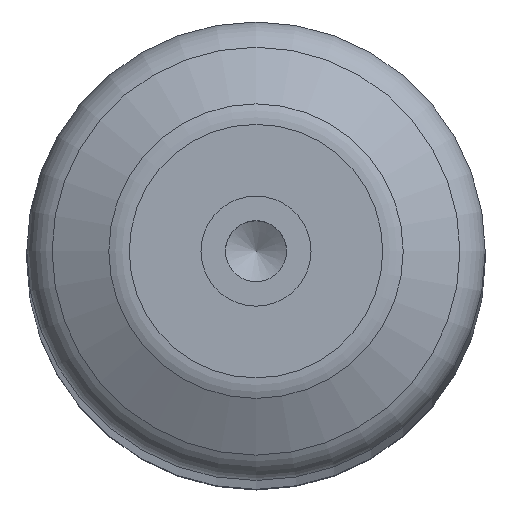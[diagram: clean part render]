
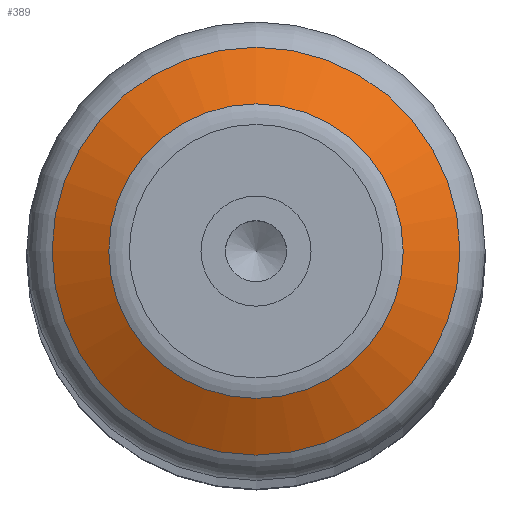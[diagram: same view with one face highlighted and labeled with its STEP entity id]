
A CAD part, top view. The second image highlights one B-rep face of the part: STEP entity #389.
In plain terms, the highlighted conical face has half-angle 63.435 degrees and reference radius 20 mm.
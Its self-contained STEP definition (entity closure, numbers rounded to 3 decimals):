
#23=CONICAL_SURFACE('',#469,20.,1.107);
#30=LINE('',#711,#41);
#41=VECTOR('',#591,20.);
#69=FACE_OUTER_BOUND('',#95,.T.);
#95=EDGE_LOOP('',(#302,#303,#304,#305,#306));
#137=CIRCLE('',#465,16.056);
#140=CIRCLE('',#468,16.056);
#141=CIRCLE('',#470,22.236);
#170=VERTEX_POINT('',#701);
#171=VERTEX_POINT('',#702);
#173=VERTEX_POINT('',#709);
#215=EDGE_CURVE('',#170,#171,#137,.T.);
#218=EDGE_CURVE('',#171,#170,#140,.T.);
#219=EDGE_CURVE('',#173,#173,#141,.T.);
#220=EDGE_CURVE('',#173,#170,#30,.T.);
#302=ORIENTED_EDGE('',*,*,#219,.F.);
#303=ORIENTED_EDGE('',*,*,#220,.T.);
#304=ORIENTED_EDGE('',*,*,#218,.F.);
#305=ORIENTED_EDGE('',*,*,#215,.F.);
#306=ORIENTED_EDGE('',*,*,#220,.F.);
#389=ADVANCED_FACE('',(#69),#23,.T.);
#465=AXIS2_PLACEMENT_3D('',#703,#579,#580);
#468=AXIS2_PLACEMENT_3D('',#707,#585,#586);
#469=AXIS2_PLACEMENT_3D('',#708,#587,#588);
#470=AXIS2_PLACEMENT_3D('',#710,#589,#590);
#579=DIRECTION('center_axis',(0.,0.,1.));
#580=DIRECTION('ref_axis',(1.,0.,0.));
#585=DIRECTION('center_axis',(0.,0.,1.));
#586=DIRECTION('ref_axis',(1.,0.,0.));
#587=DIRECTION('center_axis',(0.,0.,-1.));
#588=DIRECTION('ref_axis',(1.,0.,0.));
#589=DIRECTION('center_axis',(0.,0.,-1.));
#590=DIRECTION('ref_axis',(1.,0.,0.));
#591=DIRECTION('',(0.894,0.,0.447));
#701=CARTESIAN_POINT('',(-16.056,0.,303.972));
#702=CARTESIAN_POINT('',(16.056,0.,303.972));
#703=CARTESIAN_POINT('Origin',(0.,0.,303.972));
#707=CARTESIAN_POINT('Origin',(0.,0.,303.972));
#708=CARTESIAN_POINT('Origin',(0.,0.,302.));
#709=CARTESIAN_POINT('',(-22.236,0.,300.882));
#710=CARTESIAN_POINT('Origin',(0.,0.,300.882));
#711=CARTESIAN_POINT('',(-20.,0.,302.));
